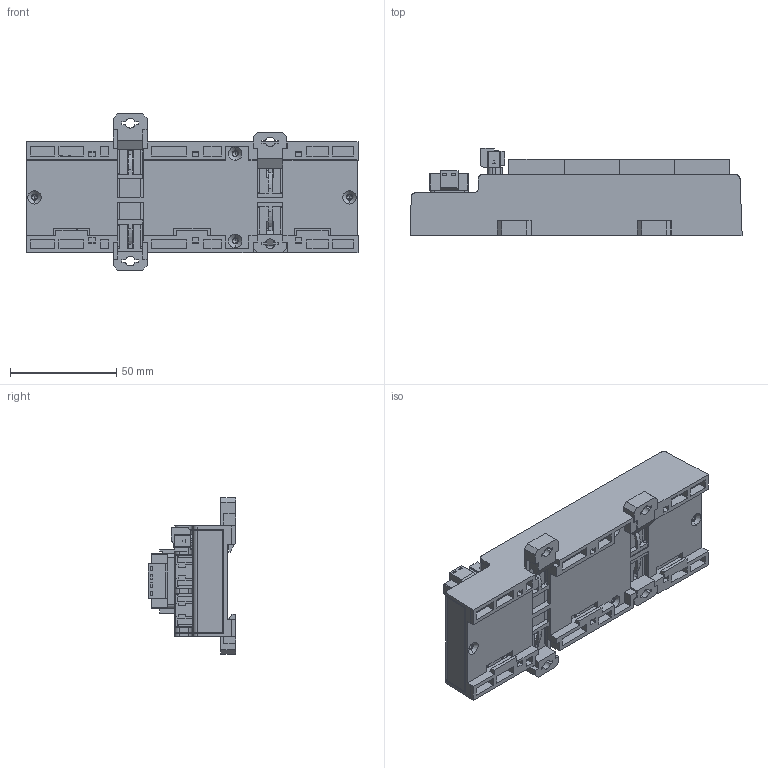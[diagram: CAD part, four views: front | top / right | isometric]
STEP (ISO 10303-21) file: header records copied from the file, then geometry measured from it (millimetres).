
FILE_DESCRIPTION (( 'STEP AP203' ), '1' );
FILE_NAME ('P118-DR-000-06-R00.STEP', '2020-12-01T01:31:13', ( '' ), ( '' ), 'SwSTEP 2.0', 'SolidWorks 2013', '' );
FILE_SCHEMA (( 'CONFIG_CONTROL_DESIGN' ));
Length unit declared in the file: millimetre
Products named in the file (29): M118-DR-000-09-R00; CNE-B403; 瞪錳薄樓醴喀攪-3-1; MC421-38102; M118-DR-000-10-R00; M118-DR-000-11-R00; 瞪錳薄樓醴喀攪-4-1; cheese slotted head_ks_KS 1021 CS - M2.5 x 5-N; 09455511103_100183220MOD000B; M118-DR-000-12-R00; 瞪錳蕾樓攪喀攪5P; cheese slotted head_ks_KS 1021 CS - M1.6 x 3-N; 瞪錳薄樓醴喀攪-1; P118-DR-000-06-R00; PCB1; 瞪錳薄樓醴喀攪-2; PCB2; MC421-38104; 瞪錳薄樓醴喀攪-3; _SA-7070A_body; 瞪錳薄樓醴喀攪-4; _Without knob (Minus slot); 瞪錳薄樓醴喀攪-1-1; 瞪錳薄樓醴喀攪-5; SA-7070TA; 瞪錳薄樓醴喀攪-2-1; 瞪錳蕾樓攪喀攪
Assembly tree (50 placements, depth 3):
  P118-DR-000-06-R00
    M118-DR-000-09-R00
    M118-DR-000-10-R00
    09455511103_100183220MOD000B  x2
    瞪錳蕾樓攪喀攪
      瞪錳薄樓醴喀攪-1
      瞪錳薄樓醴喀攪-2
      瞪錳薄樓醴喀攪-3
      瞪錳薄樓醴喀攪-4
      瞪錳薄樓醴喀攪-5
    MC421-38102
      MC421-38102
      cheese slotted head_ks_KS 1021 CS - M2.5 x 5-N  x2
      cheese slotted head_ks_KS 1021 CS - M1.6 x 3-N  x2
    MC421-38104
      MC421-38104
      cheese slotted head_ks_KS 1021 CS - M2.5 x 5-N  x2
      cheese slotted head_ks_KS 1021 CS - M1.6 x 3-N  x4
    瞪錳蕾樓攪喀攪5P
      瞪錳薄樓醴喀攪-1-1
      瞪錳薄樓醴喀攪-2-1
      瞪錳薄樓醴喀攪-3-1
      瞪錳薄樓醴喀攪-4-1  x4
    PCB1
    PCB2
    SA-7070TA  x2
      _SA-7070A_body
      _Without knob (Minus slot)
    CNE-B403  x8
    M118-DR-000-11-R00  x2
    M118-DR-000-12-R00  x2
Bounding box: 156 x 40.9 x 73.4 mm (x, y, z)
Volume: 105745.7 mm3; surface area: 114355.5 mm2
Topology: 46 solids, 46 shells, 5693 faces, 16166 edges, 10590 vertices
Faces by surface type: plane 4557, cylinder 967, cone 52, torus 48, sphere 44, bspline 25
Entity records: 116507 total; most frequent: CARTESIAN_POINT 23193, ORIENTED_EDGE 19454, DIRECTION 17326, EDGE_CURVE 9727, LINE 8230, VECTOR 8230, VERTEX_POINT 6389, AXIS2_PLACEMENT_3D 4548
